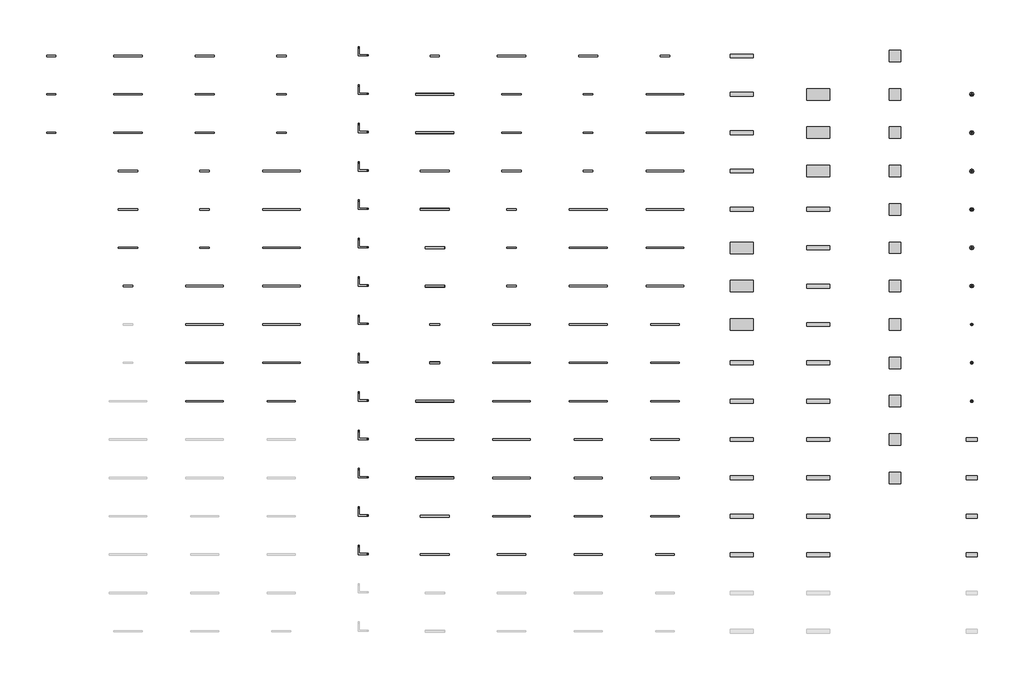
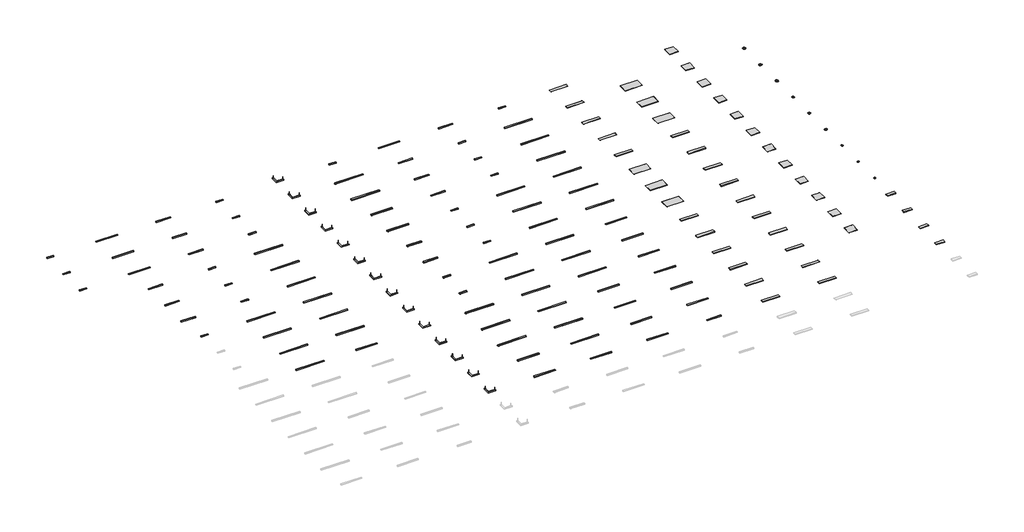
# One storey, part 7 of 7: 152 light fixtures.
"""IFC4 building model written with IfcOpenShell, lengths in millimetres."""

from ifc_helpers import new_model, si_unit, origin, place, context, project, spatial, transform, mapped, element, save
from components import light_fixture_90001b4d, light_fixture_260f1384, light_fixture_2bea209e, light_fixture_5221eba1, light_fixture_96eaa53e, light_fixture_9e089268, light_fixture_b40a6a63, light_fixture_b1754167, light_fixture_3c8a666a, light_fixture_8643cc04, light_fixture_5198e44a, light_fixture_045715e0, light_fixture_13749f30, light_fixture_eaf00b14, light_fixture_4e9e6f2b, light_fixture_50d0131d, light_fixture_58f65422, light_fixture_3ed5fcd1, light_fixture_d129a5be, light_fixture_1a73ff57, light_fixture_e28e19d9, light_fixture_e1df5a22, light_fixture_ede7c11f

model = new_model("IFC4")

# Units and contexts
model_context = context("Model", 3, world=origin())
ifc_project = project(units=[si_unit("LENGTHUNIT", "METRE", prefix="MILLI")], contexts=[model_context])

# Site, building, storey
site = spatial("IfcSite", under=ifc_project)
building = spatial("IfcBuilding", under=site)
storey = spatial("IfcBuildingStorey", under=building, Name="Уровень 1", Elevation=0.0)

# Light fixtures
placement = place(None, origin())
light_fixture_shape = light_fixture_90001b4d(model_context)
element("IfcLightFixture", 1, ObjectType="GENILED_Светильник светодиодный_Trade Linear Advanced : Trade Linear Advanced 490х65х60 10Вт Черный 3000К", at=placement, inside=storey, context=model_context, shape_type="MappedRepresentation", body=[
    mapped(light_fixture_shape, transform((128000.0, 54000.0, 0.0), x_axis=(1.0, 0.0, 0.0), y_axis=(0.0, 1.0, 0.0), z_axis=(0.0, 0.0, 1.0))),
])
element("IfcLightFixture", 2, ObjectType="GENILED_Светильник светодиодный_Trade Linear Advanced : Trade Linear Advanced 490х65х60 20Вт Черный 3000К", at=placement, inside=storey, context=model_context, shape_type="MappedRepresentation", body=[
    mapped(light_fixture_shape, transform((128000.0, 56000.0, 0.0), x_axis=(1.0, 0.0, 0.0), y_axis=(0.0, 1.0, 0.0), z_axis=(0.0, 0.0, 1.0))),
])
element("IfcLightFixture", 3, ObjectType="GENILED_Светильник светодиодный_Trade Linear Advanced : Trade Linear Advanced 490х65х60 30Вт Черный 3000К", at=placement, inside=storey, context=model_context, shape_type="MappedRepresentation", body=[
    mapped(light_fixture_shape, transform((128000.0, 58000.0, 0.0), x_axis=(1.0, 0.0, 0.0), y_axis=(0.0, 1.0, 0.0), z_axis=(0.0, 0.0, 1.0))),
])
light_fixture_2_shape = light_fixture_260f1384(model_context)
element("IfcLightFixture", 4, ObjectType="GENILED_Светильник светодиодный_Trade Linear Advanced : Trade Linear Advanced 500х65х60 30Вт IP54 Черный 3000К", at=placement, inside=storey, context=model_context, shape_type="MappedRepresentation", body=[
    mapped(light_fixture_2_shape, transform((132000.0, 46000.0, 0.0), x_axis=(1.0, 0.0, 0.0), y_axis=(0.0, 1.0, 0.0), z_axis=(0.0, 0.0, 1.0))),
])
light_fixture_3_shape = light_fixture_2bea209e(model_context)
element("IfcLightFixture", 5, ObjectType="GENILED_Светильник светодиодный_Trade Linear Advanced : Trade Linear Advanced 1000х65х60 20Вт IP54 Черный 3000К", at=placement, inside=storey, context=model_context, shape_type="MappedRepresentation", body=[
    mapped(light_fixture_3_shape, transform((132000.0, 48000.0, 0.0), x_axis=(1.0, 0.0, 0.0), y_axis=(0.0, 1.0, 0.0), z_axis=(0.0, 0.0, 1.0))),
])
element("IfcLightFixture", 6, ObjectType="GENILED_Светильник светодиодный_Trade Linear Advanced : Trade Linear Advanced 1000х65х60 40Вт IP54 Черный 3000К", at=placement, inside=storey, context=model_context, shape_type="MappedRepresentation", body=[
    mapped(light_fixture_3_shape, transform((132000.0, 50000.0, 0.0), x_axis=(1.0, 0.0, 0.0), y_axis=(0.0, 1.0, 0.0), z_axis=(0.0, 0.0, 1.0))),
])
element("IfcLightFixture", 7, ObjectType="GENILED_Светильник светодиодный_Trade Linear Advanced : Trade Linear Advanced 1000х65х60 60Вт IP54 Черный 3000К", at=placement, inside=storey, context=model_context, shape_type="MappedRepresentation", body=[
    mapped(light_fixture_3_shape, transform((132000.0, 52000.0, 0.0), x_axis=(1.0, 0.0, 0.0), y_axis=(0.0, 1.0, 0.0), z_axis=(0.0, 0.0, 1.0))),
])
light_fixture_4_shape = light_fixture_5221eba1(model_context)
element("IfcLightFixture", 8, ObjectType="GENILED_Светильник светодиодный_Trade Linear Advanced : Trade Linear Advanced 1500х65х60 30Вт IP54 Черный 3000К", at=placement, inside=storey, context=model_context, shape_type="MappedRepresentation", body=[
    mapped(light_fixture_4_shape, transform((132000.0, 54000.0, 0.0), x_axis=(1.0, 0.0, 0.0), y_axis=(0.0, 1.0, 0.0), z_axis=(0.0, 0.0, 1.0))),
])
element("IfcLightFixture", 9, ObjectType="GENILED_Светильник светодиодный_Trade Linear Advanced : Trade Linear Advanced 1500х65х60 60Вт IP54 Черный 3000К", at=placement, inside=storey, context=model_context, shape_type="MappedRepresentation", body=[
    mapped(light_fixture_4_shape, transform((132000.0, 56000.0, 0.0), x_axis=(1.0, 0.0, 0.0), y_axis=(0.0, 1.0, 0.0), z_axis=(0.0, 0.0, 1.0))),
])
element("IfcLightFixture", 10, ObjectType="GENILED_Светильник светодиодный_Trade Linear Advanced : Trade Linear Advanced 1500х65х60 90Вт IP54 Черный 3000К", at=placement, inside=storey, context=model_context, shape_type="MappedRepresentation", body=[
    mapped(light_fixture_4_shape, transform((132000.0, 58000.0, 0.0), x_axis=(1.0, 0.0, 0.0), y_axis=(0.0, 1.0, 0.0), z_axis=(0.0, 0.0, 1.0))),
])
light_fixture_5_shape = light_fixture_96eaa53e(model_context)
element("IfcLightFixture", 11, ObjectType="GENILED_Светильник светодиодный_Trade Linear Advanced : Trade Linear Advanced 1962x65x60 120Вт Черный 4000К", at=placement, inside=storey, context=model_context, shape_type="MappedRepresentation", body=[
    mapped(light_fixture_5_shape, transform((136000.0, 40000.0, 0.0), x_axis=(1.0, 0.0, 0.0), y_axis=(0.0, 1.0, 0.0), z_axis=(0.0, 0.0, 1.0))),
])
element("IfcLightFixture", 12, ObjectType="GENILED_Светильник светодиодный_Trade Linear Advanced : Trade Linear Advanced 1962x65x60 40Вт Deep Черный 4000К", at=placement, inside=storey, context=model_context, shape_type="MappedRepresentation", body=[
    mapped(light_fixture_5_shape, transform((136000.0, 42000.0, 0.0), x_axis=(1.0, 0.0, 0.0), y_axis=(0.0, 1.0, 0.0), z_axis=(0.0, 0.0, 1.0))),
])
element("IfcLightFixture", 13, ObjectType="GENILED_Светильник светодиодный_Trade Linear Advanced : Trade Linear Advanced 1962x65x60 80Вт Deep Черный 4000К", at=placement, inside=storey, context=model_context, shape_type="MappedRepresentation", body=[
    mapped(light_fixture_5_shape, transform((136000.0, 44000.0, 0.0), x_axis=(1.0, 0.0, 0.0), y_axis=(0.0, 1.0, 0.0), z_axis=(0.0, 0.0, 1.0))),
])
element("IfcLightFixture", 14, ObjectType="GENILED_Светильник светодиодный_Trade Linear Advanced : Trade Linear Advanced 1962x65x60 120Вт Deep Черный 4000К", at=placement, inside=storey, context=model_context, shape_type="MappedRepresentation", body=[
    mapped(light_fixture_5_shape, transform((136000.0, 46000.0, 0.0), x_axis=(1.0, 0.0, 0.0), y_axis=(0.0, 1.0, 0.0), z_axis=(0.0, 0.0, 1.0))),
])
element("IfcLightFixture", 15, ObjectType="GENILED_Светильник светодиодный_Trade Linear Advanced : Trade Linear Advanced 500x65x60 10Вт IP54 Черный 4000К", at=placement, inside=storey, context=model_context, shape_type="MappedRepresentation", body=[
    mapped(light_fixture_2_shape, transform((136000.0, 48000.0, 0.0), x_axis=(1.0, 0.0, 0.0), y_axis=(0.0, 1.0, 0.0), z_axis=(0.0, 0.0, 1.0))),
])
element("IfcLightFixture", 16, ObjectType="GENILED_Светильник светодиодный_Trade Linear Advanced : Trade Linear Advanced 500x65x60 20Вт IP54 Черный 4000К", at=placement, inside=storey, context=model_context, shape_type="MappedRepresentation", body=[
    mapped(light_fixture_2_shape, transform((136000.0, 50000.0, 0.0), x_axis=(1.0, 0.0, 0.0), y_axis=(0.0, 1.0, 0.0), z_axis=(0.0, 0.0, 1.0))),
])
element("IfcLightFixture", 17, ObjectType="GENILED_Светильник светодиодный_Trade Linear Advanced : Trade Linear Advanced 500x65x60 30Вт IP54 Черный 4000К", at=placement, inside=storey, context=model_context, shape_type="MappedRepresentation", body=[
    mapped(light_fixture_2_shape, transform((136000.0, 52000.0, 0.0), x_axis=(1.0, 0.0, 0.0), y_axis=(0.0, 1.0, 0.0), z_axis=(0.0, 0.0, 1.0))),
])
element("IfcLightFixture", 18, ObjectType="GENILED_Светильник светодиодный_Trade Linear Advanced : Trade Linear Advanced 1000x65x60 20Вт IP54 Черный 4000К", at=placement, inside=storey, context=model_context, shape_type="MappedRepresentation", body=[
    mapped(light_fixture_3_shape, transform((136000.0, 54000.0, 0.0), x_axis=(1.0, 0.0, 0.0), y_axis=(0.0, 1.0, 0.0), z_axis=(0.0, 0.0, 1.0))),
])
element("IfcLightFixture", 19, ObjectType="GENILED_Светильник светодиодный_Trade Linear Advanced : Trade Linear Advanced 1000x65x60 40Вт IP54 Черный 4000К", at=placement, inside=storey, context=model_context, shape_type="MappedRepresentation", body=[
    mapped(light_fixture_3_shape, transform((136000.0, 56000.0, 0.0), x_axis=(1.0, 0.0, 0.0), y_axis=(0.0, 1.0, 0.0), z_axis=(0.0, 0.0, 1.0))),
])
element("IfcLightFixture", 20, ObjectType="GENILED_Светильник светодиодный_Trade Linear Advanced : Trade Linear Advanced 1000x65x60 60Вт IP54 Черный 4000К", at=placement, inside=storey, context=model_context, shape_type="MappedRepresentation", body=[
    mapped(light_fixture_3_shape, transform((136000.0, 58000.0, 0.0), x_axis=(1.0, 0.0, 0.0), y_axis=(0.0, 1.0, 0.0), z_axis=(0.0, 0.0, 1.0))),
])
light_fixture_6_shape = light_fixture_9e089268(model_context)
element("IfcLightFixture", 21, ObjectType="GENILED_Светильник светодиодный_Trade Linear Advanced : Trade Linear Advanced 1472x65x60 90Вт Deep Черный 5000К", at=placement, inside=storey, context=model_context, shape_type="MappedRepresentation", body=[
    mapped(light_fixture_6_shape, transform((140000.0, 40000.0, 0.0), x_axis=(1.0, 0.0, 0.0), y_axis=(0.0, 1.0, 0.0), z_axis=(0.0, 0.0, 1.0))),
])
element("IfcLightFixture", 22, ObjectType="GENILED_Светильник светодиодный_Trade Linear Advanced : Trade Linear Advanced 1962x65x60 40Вт Черный 5000К", at=placement, inside=storey, context=model_context, shape_type="MappedRepresentation", body=[
    mapped(light_fixture_5_shape, transform((140000.0, 42000.0, 0.0), x_axis=(1.0, 0.0, 0.0), y_axis=(0.0, 1.0, 0.0), z_axis=(0.0, 0.0, 1.0))),
])
element("IfcLightFixture", 23, ObjectType="GENILED_Светильник светодиодный_Trade Linear Advanced : Trade Linear Advanced 1962x65x60 80Вт Черный 5000К", at=placement, inside=storey, context=model_context, shape_type="MappedRepresentation", body=[
    mapped(light_fixture_5_shape, transform((140000.0, 44000.0, 0.0), x_axis=(1.0, 0.0, 0.0), y_axis=(0.0, 1.0, 0.0), z_axis=(0.0, 0.0, 1.0))),
])
element("IfcLightFixture", 24, ObjectType="GENILED_Светильник светодиодный_Trade Linear Advanced : Trade Linear Advanced 1962x65x60 120Вт Черный 5000К", at=placement, inside=storey, context=model_context, shape_type="MappedRepresentation", body=[
    mapped(light_fixture_5_shape, transform((140000.0, 46000.0, 0.0), x_axis=(1.0, 0.0, 0.0), y_axis=(0.0, 1.0, 0.0), z_axis=(0.0, 0.0, 1.0))),
])
element("IfcLightFixture", 25, ObjectType="GENILED_Светильник светодиодный_Trade Linear Advanced : Trade Linear Advanced 1962x65x60 40Вт Deep Черный 5000К", at=placement, inside=storey, context=model_context, shape_type="MappedRepresentation", body=[
    mapped(light_fixture_5_shape, transform((140000.0, 48000.0, 0.0), x_axis=(1.0, 0.0, 0.0), y_axis=(0.0, 1.0, 0.0), z_axis=(0.0, 0.0, 1.0))),
])
element("IfcLightFixture", 26, ObjectType="GENILED_Светильник светодиодный_Trade Linear Advanced : Trade Linear Advanced 1962x65x60 80Вт Deep Черный 5000К", at=placement, inside=storey, context=model_context, shape_type="MappedRepresentation", body=[
    mapped(light_fixture_5_shape, transform((140000.0, 50000.0, 0.0), x_axis=(1.0, 0.0, 0.0), y_axis=(0.0, 1.0, 0.0), z_axis=(0.0, 0.0, 1.0))),
])
element("IfcLightFixture", 27, ObjectType="GENILED_Светильник светодиодный_Trade Linear Advanced : Trade Linear Advanced 1962x65x60 120Вт Deep Черный 5000К", at=placement, inside=storey, context=model_context, shape_type="MappedRepresentation", body=[
    mapped(light_fixture_5_shape, transform((140000.0, 52000.0, 0.0), x_axis=(1.0, 0.0, 0.0), y_axis=(0.0, 1.0, 0.0), z_axis=(0.0, 0.0, 1.0))),
])
element("IfcLightFixture", 28, ObjectType="GENILED_Светильник светодиодный_Trade Linear Advanced : Trade Linear Advanced 500x65x60 10Вт IP54 Черный 5000К", at=placement, inside=storey, context=model_context, shape_type="MappedRepresentation", body=[
    mapped(light_fixture_2_shape, transform((140000.0, 54000.0, 0.0), x_axis=(1.0, 0.0, 0.0), y_axis=(0.0, 1.0, 0.0), z_axis=(0.0, 0.0, 1.0))),
])
element("IfcLightFixture", 29, ObjectType="GENILED_Светильник светодиодный_Trade Linear Advanced : Trade Linear Advanced 500x65x60 20Вт IP54 Черный 5000К", at=placement, inside=storey, context=model_context, shape_type="MappedRepresentation", body=[
    mapped(light_fixture_2_shape, transform((140000.0, 56000.0, 0.0), x_axis=(1.0, 0.0, 0.0), y_axis=(0.0, 1.0, 0.0), z_axis=(0.0, 0.0, 1.0))),
])
element("IfcLightFixture", 30, ObjectType="GENILED_Светильник светодиодный_Trade Linear Advanced : Trade Linear Advanced 500x65x60 30Вт IP54 Черный 5000К", at=placement, inside=storey, context=model_context, shape_type="MappedRepresentation", body=[
    mapped(light_fixture_2_shape, transform((140000.0, 58000.0, 0.0), x_axis=(1.0, 0.0, 0.0), y_axis=(0.0, 1.0, 0.0), z_axis=(0.0, 0.0, 1.0))),
])
light_fixture_7_shape = light_fixture_b40a6a63(model_context)
element("IfcLightFixture", 31, ObjectType="GENILED_Светильник светодиодный_Trade Linear L Advanced : Trade Linear Advanced 492-542x65x60 40Вт Deep Черный 4000К", at=placement, inside=storey, context=model_context, shape_type="MappedRepresentation", body=[
    mapped(light_fixture_7_shape, transform((144000.0, 32000.0, 0.0), x_axis=(1.0, 0.0, 0.0), y_axis=(0.0, 1.0, 0.0), z_axis=(0.0, 0.0, 1.0))),
])
element("IfcLightFixture", 32, ObjectType="GENILED_Светильник светодиодный_Trade Linear L Advanced : Trade Linear Advanced 492-542x65x60 60Вт Deep Черный 4000К", at=placement, inside=storey, context=model_context, shape_type="MappedRepresentation", body=[
    mapped(light_fixture_7_shape, transform((144000.0, 34000.0, 0.0), x_axis=(1.0, 0.0, 0.0), y_axis=(0.0, 1.0, 0.0), z_axis=(0.0, 0.0, 1.0))),
])
element("IfcLightFixture", 33, ObjectType="GENILED_Светильник светодиодный_Trade Linear L Advanced : Trade Linear Advanced 492-542x65x60 20Вт Черный 5000К", at=placement, inside=storey, context=model_context, shape_type="MappedRepresentation", body=[
    mapped(light_fixture_7_shape, transform((144000.0, 36000.0, 0.0), x_axis=(1.0, 0.0, 0.0), y_axis=(0.0, 1.0, 0.0), z_axis=(0.0, 0.0, 1.0))),
])
element("IfcLightFixture", 34, ObjectType="GENILED_Светильник светодиодный_Trade Linear L Advanced : Trade Linear Advanced 492-542x65x60 40Вт Черный 5000К", at=placement, inside=storey, context=model_context, shape_type="MappedRepresentation", body=[
    mapped(light_fixture_7_shape, transform((144000.0, 38000.0, 0.0), x_axis=(1.0, 0.0, 0.0), y_axis=(0.0, 1.0, 0.0), z_axis=(0.0, 0.0, 1.0))),
])
element("IfcLightFixture", 35, ObjectType="GENILED_Светильник светодиодный_Trade Linear L Advanced : Trade Linear Advanced 492-542x65x60 60Вт Черный 5000К", at=placement, inside=storey, context=model_context, shape_type="MappedRepresentation", body=[
    mapped(light_fixture_7_shape, transform((144000.0, 40000.0, 0.0), x_axis=(1.0, 0.0, 0.0), y_axis=(0.0, 1.0, 0.0), z_axis=(0.0, 0.0, 1.0))),
])
element("IfcLightFixture", 36, ObjectType="GENILED_Светильник светодиодный_Trade Linear L Advanced : Trade Linear Advanced 492-542x65x60 20Вт Deep Черный 5000К", at=placement, inside=storey, context=model_context, shape_type="MappedRepresentation", body=[
    mapped(light_fixture_7_shape, transform((144000.0, 42000.0, 0.0), x_axis=(1.0, 0.0, 0.0), y_axis=(0.0, 1.0, 0.0), z_axis=(0.0, 0.0, 1.0))),
])
element("IfcLightFixture", 37, ObjectType="GENILED_Светильник светодиодный_Trade Linear L Advanced : Trade Linear Advanced 492-542x65x60 40Вт Deep Черный 5000К", at=placement, inside=storey, context=model_context, shape_type="MappedRepresentation", body=[
    mapped(light_fixture_7_shape, transform((144000.0, 44000.0, 0.0), x_axis=(1.0, 0.0, 0.0), y_axis=(0.0, 1.0, 0.0), z_axis=(0.0, 0.0, 1.0))),
])
element("IfcLightFixture", 38, ObjectType="GENILED_Светильник светодиодный_Trade Linear L Advanced : Trade Linear Advanced 492-542x65x60 60Вт Deep Черный 5000К", at=placement, inside=storey, context=model_context, shape_type="MappedRepresentation", body=[
    mapped(light_fixture_7_shape, transform((144000.0, 46000.0, 0.0), x_axis=(1.0, 0.0, 0.0), y_axis=(0.0, 1.0, 0.0), z_axis=(0.0, 0.0, 1.0))),
])
element("IfcLightFixture", 39, ObjectType="GENILED_Светильник светодиодный_Trade Linear L Standart : Trade Linear Standart 492-542x65x60 20Вт Черный 3000К", at=placement, inside=storey, context=model_context, shape_type="MappedRepresentation", body=[
    mapped(light_fixture_7_shape, transform((144000.0, 48000.0, 0.0), x_axis=(1.0, 0.0, 0.0), y_axis=(0.0, 1.0, 0.0), z_axis=(0.0, 0.0, 1.0))),
])
element("IfcLightFixture", 40, ObjectType="GENILED_Светильник светодиодный_Trade Linear L Standart : Trade Linear Standart 492-542x65x60 40Вт Черный 3000К", at=placement, inside=storey, context=model_context, shape_type="MappedRepresentation", body=[
    mapped(light_fixture_7_shape, transform((144000.0, 50000.0, 0.0), x_axis=(1.0, 0.0, 0.0), y_axis=(0.0, 1.0, 0.0), z_axis=(0.0, 0.0, 1.0))),
])
element("IfcLightFixture", 41, ObjectType="GENILED_Светильник светодиодный_Trade Linear L Standart : Trade Linear Standart 492-542x65x60 60Вт Черный 3000К", at=placement, inside=storey, context=model_context, shape_type="MappedRepresentation", body=[
    mapped(light_fixture_7_shape, transform((144000.0, 52000.0, 0.0), x_axis=(1.0, 0.0, 0.0), y_axis=(0.0, 1.0, 0.0), z_axis=(0.0, 0.0, 1.0))),
])
element("IfcLightFixture", 42, ObjectType="GENILED_Светильник светодиодный_Trade Linear L Standart : Trade Linear Standart 492-542x65x60 20Вт Deep Черный 3000К", at=placement, inside=storey, context=model_context, shape_type="MappedRepresentation", body=[
    mapped(light_fixture_7_shape, transform((144000.0, 54000.0, 0.0), x_axis=(1.0, 0.0, 0.0), y_axis=(0.0, 1.0, 0.0), z_axis=(0.0, 0.0, 1.0))),
])
element("IfcLightFixture", 43, ObjectType="GENILED_Светильник светодиодный_Trade Linear L Standart : Trade Linear Standart 492-542x65x60 40Вт Deep Черный 3000К", at=placement, inside=storey, context=model_context, shape_type="MappedRepresentation", body=[
    mapped(light_fixture_7_shape, transform((144000.0, 56000.0, 0.0), x_axis=(1.0, 0.0, 0.0), y_axis=(0.0, 1.0, 0.0), z_axis=(0.0, 0.0, 1.0))),
])
element("IfcLightFixture", 44, ObjectType="GENILED_Светильник светодиодный_Trade Linear L Standart : Trade Linear Standart 492-542x65x60 60Вт Deep Черный 3000К", at=placement, inside=storey, context=model_context, shape_type="MappedRepresentation", body=[
    mapped(light_fixture_7_shape, transform((144000.0, 58000.0, 0.0), x_axis=(1.0, 0.0, 0.0), y_axis=(0.0, 1.0, 0.0), z_axis=(0.0, 0.0, 1.0))),
])
light_fixture_8_shape = light_fixture_b1754167(model_context)
element("IfcLightFixture", 45, ObjectType="GENILED_Светильник светодиодный_Trade Linear Standart Встраиваемый : Встраиваемый Trade Linear Standart 1472x65x60 60Вт Deep Опал Черный", at=placement, inside=storey, context=model_context, shape_type="MappedRepresentation", body=[
    mapped(light_fixture_8_shape, transform((148000.0, 32000.0, 0.0), x_axis=(1.0, 0.0, 0.0), y_axis=(0.0, 1.0, 0.0), z_axis=(0.0, 0.0, 1.0))),
])
element("IfcLightFixture", 46, ObjectType="GENILED_Светильник светодиодный_Trade Linear Standart Встраиваемый : Встраиваемый Trade Linear Standart 1472x65x60 90Вт Deep Опал Черный", at=placement, inside=storey, context=model_context, shape_type="MappedRepresentation", body=[
    mapped(light_fixture_8_shape, transform((148000.0, 34000.0, 0.0), x_axis=(1.0, 0.0, 0.0), y_axis=(0.0, 1.0, 0.0), z_axis=(0.0, 0.0, 1.0))),
])
light_fixture_9_shape = light_fixture_3c8a666a(model_context)
element("IfcLightFixture", 47, ObjectType="GENILED_Светильник светодиодный_Trade Linear Standart Встраиваемый : Встраиваемый Trade Linear Standart 1962x65x60 80Вт Deep Опал Черный", at=placement, inside=storey, context=model_context, shape_type="MappedRepresentation", body=[
    mapped(light_fixture_9_shape, transform((148000.0, 36000.0, 0.0), x_axis=(1.0, 0.0, 0.0), y_axis=(0.0, 1.0, 0.0), z_axis=(0.0, 0.0, 1.0))),
])
element("IfcLightFixture", 48, ObjectType="GENILED_Светильник светодиодный_Trade Linear Standart Встраиваемый : Встраиваемый Trade Linear Standart 1962x65x60 120Вт Deep Опал Черный", at=placement, inside=storey, context=model_context, shape_type="MappedRepresentation", body=[
    mapped(light_fixture_9_shape, transform((148000.0, 38000.0, 0.0), x_axis=(1.0, 0.0, 0.0), y_axis=(0.0, 1.0, 0.0), z_axis=(0.0, 0.0, 1.0))),
])
element("IfcLightFixture", 49, ObjectType="GENILED_Светильник светодиодный_Trade Linear Standart Встраиваемый : Встраиваемый Trade Linear Standart 1962x65x60 120Вт Deep 5000К Опал Черный", at=placement, inside=storey, context=model_context, shape_type="MappedRepresentation", body=[
    mapped(light_fixture_9_shape, transform((148000.0, 40000.0, 0.0), x_axis=(1.0, 0.0, 0.0), y_axis=(0.0, 1.0, 0.0), z_axis=(0.0, 0.0, 1.0))),
])
light_fixture_10_shape = light_fixture_8643cc04(model_context)
element("IfcLightFixture", 50, ObjectType="GENILED_Светильник светодиодный_Trade Linear Standart Встраиваемый : Встраиваемый Trade Linear Standart 490x65x60 20Вт 90Ra Deep Опал Черный", at=placement, inside=storey, context=model_context, shape_type="MappedRepresentation", body=[
    mapped(light_fixture_10_shape, transform((148000.0, 42000.0, 0.0), x_axis=(1.0, 0.0, 0.0), y_axis=(0.0, 1.0, 0.0), z_axis=(0.0, 0.0, 1.0))),
])
element("IfcLightFixture", 51, ObjectType="GENILED_Светильник светодиодный_Trade Linear Standart Встраиваемый : Встраиваемый Trade Linear Standart 490x65x60 30Вт 90Ra Deep Опал Черный", at=placement, inside=storey, context=model_context, shape_type="MappedRepresentation", body=[
    mapped(light_fixture_10_shape, transform((148000.0, 44000.0, 0.0), x_axis=(1.0, 0.0, 0.0), y_axis=(0.0, 1.0, 0.0), z_axis=(0.0, 0.0, 1.0))),
])
light_fixture_11_shape = light_fixture_5198e44a(model_context)
element("IfcLightFixture", 52, ObjectType="GENILED_Светильник светодиодный_Trade Linear Standart Встраиваемый : Встраиваемый Trade Linear Standart 980x65x60 40Вт 90Ra Deep Опал Черный", at=placement, inside=storey, context=model_context, shape_type="MappedRepresentation", body=[
    mapped(light_fixture_11_shape, transform((148000.0, 46000.0, 0.0), x_axis=(1.0, 0.0, 0.0), y_axis=(0.0, 1.0, 0.0), z_axis=(0.0, 0.0, 1.0))),
])
element("IfcLightFixture", 53, ObjectType="GENILED_Светильник светодиодный_Trade Linear Standart Встраиваемый : Встраиваемый Trade Linear Standart 980x65x60 60Вт 90Ra Deep Опал Черный", at=placement, inside=storey, context=model_context, shape_type="MappedRepresentation", body=[
    mapped(light_fixture_11_shape, transform((148000.0, 48000.0, 0.0), x_axis=(1.0, 0.0, 0.0), y_axis=(0.0, 1.0, 0.0), z_axis=(0.0, 0.0, 1.0))),
])
element("IfcLightFixture", 54, ObjectType="GENILED_Светильник светодиодный_Trade Linear Standart Встраиваемый : Встраиваемый Trade Linear Standart 1472x65x60 60Вт 90Ra Deep Опал Черный", at=placement, inside=storey, context=model_context, shape_type="MappedRepresentation", body=[
    mapped(light_fixture_8_shape, transform((148000.0, 50000.0, 0.0), x_axis=(1.0, 0.0, 0.0), y_axis=(0.0, 1.0, 0.0), z_axis=(0.0, 0.0, 1.0))),
])
element("IfcLightFixture", 55, ObjectType="GENILED_Светильник светодиодный_Trade Linear Standart Встраиваемый : Встраиваемый Trade Linear Standart 1472x65x60 90Вт 90Ra Deep Опал Черный", at=placement, inside=storey, context=model_context, shape_type="MappedRepresentation", body=[
    mapped(light_fixture_8_shape, transform((148000.0, 52000.0, 0.0), x_axis=(1.0, 0.0, 0.0), y_axis=(0.0, 1.0, 0.0), z_axis=(0.0, 0.0, 1.0))),
])
element("IfcLightFixture", 56, ObjectType="GENILED_Светильник светодиодный_Trade Linear Standart Встраиваемый : Встраиваемый Trade Linear Standart 1962x65x60 80Вт 90Ra Deep Опал Черный", at=placement, inside=storey, context=model_context, shape_type="MappedRepresentation", body=[
    mapped(light_fixture_9_shape, transform((148000.0, 54000.0, 0.0), x_axis=(1.0, 0.0, 0.0), y_axis=(0.0, 1.0, 0.0), z_axis=(0.0, 0.0, 1.0))),
])
element("IfcLightFixture", 57, ObjectType="GENILED_Светильник светодиодный_Trade Linear Standart Встраиваемый : Встраиваемый Trade Linear Standart 1962x65x60 120Вт 90Ra Deep Опал Черный", at=placement, inside=storey, context=model_context, shape_type="MappedRepresentation", body=[
    mapped(light_fixture_9_shape, transform((148000.0, 56000.0, 0.0), x_axis=(1.0, 0.0, 0.0), y_axis=(0.0, 1.0, 0.0), z_axis=(0.0, 0.0, 1.0))),
])
element("IfcLightFixture", 58, ObjectType="GENILED_Светильник светодиодный_Trade Linear Standart : Trade Linear Standart 490x65x60 10Вт Черный 3000К", at=placement, inside=storey, context=model_context, shape_type="MappedRepresentation", body=[
    mapped(light_fixture_shape, transform((148000.0, 58000.0, 0.0), x_axis=(1.0, 0.0, 0.0), y_axis=(0.0, 1.0, 0.0), z_axis=(0.0, 0.0, 1.0))),
])
element("IfcLightFixture", 59, ObjectType="GENILED_Светильник светодиодный_Trade Linear Standart : Trade Linear Standart 1472x65x60 90Вт Deep Черный 3000К", at=placement, inside=storey, context=model_context, shape_type="MappedRepresentation", body=[
    mapped(light_fixture_6_shape, transform((152000.0, 32000.0, 0.0), x_axis=(1.0, 0.0, 0.0), y_axis=(0.0, 1.0, 0.0), z_axis=(0.0, 0.0, 1.0))),
])
element("IfcLightFixture", 60, ObjectType="GENILED_Светильник светодиодный_Trade Linear Standart : Trade Linear Standart 1962x65x60 40Вт Черный 3000К", at=placement, inside=storey, context=model_context, shape_type="MappedRepresentation", body=[
    mapped(light_fixture_5_shape, transform((152000.0, 34000.0, 0.0), x_axis=(1.0, 0.0, 0.0), y_axis=(0.0, 1.0, 0.0), z_axis=(0.0, 0.0, 1.0))),
])
element("IfcLightFixture", 61, ObjectType="GENILED_Светильник светодиодный_Trade Linear Standart : Trade Linear Standart 1962x65x60 80Вт Черный 3000К", at=placement, inside=storey, context=model_context, shape_type="MappedRepresentation", body=[
    mapped(light_fixture_5_shape, transform((152000.0, 36000.0, 0.0), x_axis=(1.0, 0.0, 0.0), y_axis=(0.0, 1.0, 0.0), z_axis=(0.0, 0.0, 1.0))),
])
element("IfcLightFixture", 62, ObjectType="GENILED_Светильник светодиодный_Trade Linear Standart : Trade Linear Standart 1962x65x60 120Вт Черный 3000К", at=placement, inside=storey, context=model_context, shape_type="MappedRepresentation", body=[
    mapped(light_fixture_5_shape, transform((152000.0, 38000.0, 0.0), x_axis=(1.0, 0.0, 0.0), y_axis=(0.0, 1.0, 0.0), z_axis=(0.0, 0.0, 1.0))),
])
element("IfcLightFixture", 63, ObjectType="GENILED_Светильник светодиодный_Trade Linear Standart : Trade Linear Standart 1962x65x60 40Вт Deep Черный 3000К", at=placement, inside=storey, context=model_context, shape_type="MappedRepresentation", body=[
    mapped(light_fixture_5_shape, transform((152000.0, 40000.0, 0.0), x_axis=(1.0, 0.0, 0.0), y_axis=(0.0, 1.0, 0.0), z_axis=(0.0, 0.0, 1.0))),
])
element("IfcLightFixture", 64, ObjectType="GENILED_Светильник светодиодный_Trade Linear Standart : Trade Linear Standart 1962x65x60 80Вт Deep Черный 3000К", at=placement, inside=storey, context=model_context, shape_type="MappedRepresentation", body=[
    mapped(light_fixture_5_shape, transform((152000.0, 42000.0, 0.0), x_axis=(1.0, 0.0, 0.0), y_axis=(0.0, 1.0, 0.0), z_axis=(0.0, 0.0, 1.0))),
])
element("IfcLightFixture", 65, ObjectType="GENILED_Светильник светодиодный_Trade Linear Standart : Trade Linear Standart 1962x65x60 120Вт Deep Черный 3000К", at=placement, inside=storey, context=model_context, shape_type="MappedRepresentation", body=[
    mapped(light_fixture_5_shape, transform((152000.0, 44000.0, 0.0), x_axis=(1.0, 0.0, 0.0), y_axis=(0.0, 1.0, 0.0), z_axis=(0.0, 0.0, 1.0))),
])
element("IfcLightFixture", 66, ObjectType="GENILED_Светильник светодиодный_Trade Linear Standart : Trade Linear Standart 500x65x60 10Вт IP54 Черный 3000К", at=placement, inside=storey, context=model_context, shape_type="MappedRepresentation", body=[
    mapped(light_fixture_2_shape, transform((152000.0, 46000.0, 0.0), x_axis=(1.0, 0.0, 0.0), y_axis=(0.0, 1.0, 0.0), z_axis=(0.0, 0.0, 1.0))),
])
element("IfcLightFixture", 67, ObjectType="GENILED_Светильник светодиодный_Trade Linear Standart : Trade Linear Standart 500x65x60 20Вт IP54 Черный 3000К", at=placement, inside=storey, context=model_context, shape_type="MappedRepresentation", body=[
    mapped(light_fixture_2_shape, transform((152000.0, 48000.0, 0.0), x_axis=(1.0, 0.0, 0.0), y_axis=(0.0, 1.0, 0.0), z_axis=(0.0, 0.0, 1.0))),
])
element("IfcLightFixture", 68, ObjectType="GENILED_Светильник светодиодный_Trade Linear Standart : Trade Linear Standart 500x65x60 30Вт IP54 Черный 3000К", at=placement, inside=storey, context=model_context, shape_type="MappedRepresentation", body=[
    mapped(light_fixture_2_shape, transform((152000.0, 50000.0, 0.0), x_axis=(1.0, 0.0, 0.0), y_axis=(0.0, 1.0, 0.0), z_axis=(0.0, 0.0, 1.0))),
])
element("IfcLightFixture", 69, ObjectType="GENILED_Светильник светодиодный_Trade Linear Standart : Trade Linear Standart 1000x65x60 20Вт IP54 Черный 3000К", at=placement, inside=storey, context=model_context, shape_type="MappedRepresentation", body=[
    mapped(light_fixture_3_shape, transform((152000.0, 52000.0, 0.0), x_axis=(1.0, 0.0, 0.0), y_axis=(0.0, 1.0, 0.0), z_axis=(0.0, 0.0, 1.0))),
])
element("IfcLightFixture", 70, ObjectType="GENILED_Светильник светодиодный_Trade Linear Standart : Trade Linear Standart 1000x65x60 40Вт IP54 Черный 3000К", at=placement, inside=storey, context=model_context, shape_type="MappedRepresentation", body=[
    mapped(light_fixture_3_shape, transform((152000.0, 54000.0, 0.0), x_axis=(1.0, 0.0, 0.0), y_axis=(0.0, 1.0, 0.0), z_axis=(0.0, 0.0, 1.0))),
])
element("IfcLightFixture", 71, ObjectType="GENILED_Светильник светодиодный_Trade Linear Standart : Trade Linear Standart 1000x65x60 60Вт IP54 Черный 3000К", at=placement, inside=storey, context=model_context, shape_type="MappedRepresentation", body=[
    mapped(light_fixture_3_shape, transform((152000.0, 56000.0, 0.0), x_axis=(1.0, 0.0, 0.0), y_axis=(0.0, 1.0, 0.0), z_axis=(0.0, 0.0, 1.0))),
])
element("IfcLightFixture", 72, ObjectType="GENILED_Светильник светодиодный_Trade Linear Standart : Trade Linear Standart 1500x65x60 30Вт IP54 Черный 3000К", at=placement, inside=storey, context=model_context, shape_type="MappedRepresentation", body=[
    mapped(light_fixture_4_shape, transform((152000.0, 58000.0, 0.0), x_axis=(1.0, 0.0, 0.0), y_axis=(0.0, 1.0, 0.0), z_axis=(0.0, 0.0, 1.0))),
])
element("IfcLightFixture", 73, ObjectType="GENILED_Светильник светодиодный_Trade Linear Standart : Trade Linear Standart 1472x65x60 90Вт 90Ra Белый 4000К", at=placement, inside=storey, context=model_context, shape_type="MappedRepresentation", body=[
    mapped(light_fixture_6_shape, transform((156000.0, 32000.0, 0.0), x_axis=(1.0, 0.0, 0.0), y_axis=(0.0, 1.0, 0.0), z_axis=(0.0, 0.0, 1.0))),
])
element("IfcLightFixture", 74, ObjectType="GENILED_Светильник светодиодный_Trade Linear Standart : Trade Linear Standart 1472x65x60 30Вт 90Ra Deep Белый 4000К", at=placement, inside=storey, context=model_context, shape_type="MappedRepresentation", body=[
    mapped(light_fixture_6_shape, transform((156000.0, 34000.0, 0.0), x_axis=(1.0, 0.0, 0.0), y_axis=(0.0, 1.0, 0.0), z_axis=(0.0, 0.0, 1.0))),
])
element("IfcLightFixture", 75, ObjectType="GENILED_Светильник светодиодный_Trade Linear Standart : Trade Linear Standart 1472x65x60 60Вт 90Ra Deep Белый 4000К", at=placement, inside=storey, context=model_context, shape_type="MappedRepresentation", body=[
    mapped(light_fixture_6_shape, transform((156000.0, 36000.0, 0.0), x_axis=(1.0, 0.0, 0.0), y_axis=(0.0, 1.0, 0.0), z_axis=(0.0, 0.0, 1.0))),
])
element("IfcLightFixture", 76, ObjectType="GENILED_Светильник светодиодный_Trade Linear Standart : Trade Linear Standart 1472x65x60 90Вт 90Ra Deep Белый 4000К", at=placement, inside=storey, context=model_context, shape_type="MappedRepresentation", body=[
    mapped(light_fixture_6_shape, transform((156000.0, 38000.0, 0.0), x_axis=(1.0, 0.0, 0.0), y_axis=(0.0, 1.0, 0.0), z_axis=(0.0, 0.0, 1.0))),
])
element("IfcLightFixture", 77, ObjectType="GENILED_Светильник светодиодный_Trade Linear Standart : Trade Linear Standart 1962x65x60 40Вт 90Ra Белый 4000К", at=placement, inside=storey, context=model_context, shape_type="MappedRepresentation", body=[
    mapped(light_fixture_5_shape, transform((156000.0, 40000.0, 0.0), x_axis=(1.0, 0.0, 0.0), y_axis=(0.0, 1.0, 0.0), z_axis=(0.0, 0.0, 1.0))),
])
element("IfcLightFixture", 78, ObjectType="GENILED_Светильник светодиодный_Trade Linear Standart : Trade Linear Standart 1962x65x60 80Вт 90Ra Белый 4000К", at=placement, inside=storey, context=model_context, shape_type="MappedRepresentation", body=[
    mapped(light_fixture_5_shape, transform((156000.0, 42000.0, 0.0), x_axis=(1.0, 0.0, 0.0), y_axis=(0.0, 1.0, 0.0), z_axis=(0.0, 0.0, 1.0))),
])
element("IfcLightFixture", 79, ObjectType="GENILED_Светильник светодиодный_Trade Linear Standart : Trade Linear Standart 1962x65x60 120Вт 90Ra Белый 4000К", at=placement, inside=storey, context=model_context, shape_type="MappedRepresentation", body=[
    mapped(light_fixture_5_shape, transform((156000.0, 44000.0, 0.0), x_axis=(1.0, 0.0, 0.0), y_axis=(0.0, 1.0, 0.0), z_axis=(0.0, 0.0, 1.0))),
])
element("IfcLightFixture", 80, ObjectType="GENILED_Светильник светодиодный_Trade Linear Standart : Trade Linear Standart 1962x65x60 40Вт 90Ra Deep Белый 4000К", at=placement, inside=storey, context=model_context, shape_type="MappedRepresentation", body=[
    mapped(light_fixture_5_shape, transform((156000.0, 46000.0, 0.0), x_axis=(1.0, 0.0, 0.0), y_axis=(0.0, 1.0, 0.0), z_axis=(0.0, 0.0, 1.0))),
])
element("IfcLightFixture", 81, ObjectType="GENILED_Светильник светодиодный_Trade Linear Standart : Trade Linear Standart 1962x65x60 80Вт 90Ra Deep Белый 4000К", at=placement, inside=storey, context=model_context, shape_type="MappedRepresentation", body=[
    mapped(light_fixture_5_shape, transform((156000.0, 48000.0, 0.0), x_axis=(1.0, 0.0, 0.0), y_axis=(0.0, 1.0, 0.0), z_axis=(0.0, 0.0, 1.0))),
])
element("IfcLightFixture", 82, ObjectType="GENILED_Светильник светодиодный_Trade Linear Standart : Trade Linear Standart 1962x65x60 120Вт 90Ra Deep Белый 4000К", at=placement, inside=storey, context=model_context, shape_type="MappedRepresentation", body=[
    mapped(light_fixture_5_shape, transform((156000.0, 50000.0, 0.0), x_axis=(1.0, 0.0, 0.0), y_axis=(0.0, 1.0, 0.0), z_axis=(0.0, 0.0, 1.0))),
])
element("IfcLightFixture", 83, ObjectType="GENILED_Светильник светодиодный_Trade Linear Standart : Trade Linear Standart 500x65x60 10Вт 90Ra IP54 Белый 4000К", at=placement, inside=storey, context=model_context, shape_type="MappedRepresentation", body=[
    mapped(light_fixture_2_shape, transform((156000.0, 52000.0, 0.0), x_axis=(1.0, 0.0, 0.0), y_axis=(0.0, 1.0, 0.0), z_axis=(0.0, 0.0, 1.0))),
])
element("IfcLightFixture", 84, ObjectType="GENILED_Светильник светодиодный_Trade Linear Standart : Trade Linear Standart 500x65x60 20Вт 90Ra IP54 Белый 4000К", at=placement, inside=storey, context=model_context, shape_type="MappedRepresentation", body=[
    mapped(light_fixture_2_shape, transform((156000.0, 54000.0, 0.0), x_axis=(1.0, 0.0, 0.0), y_axis=(0.0, 1.0, 0.0), z_axis=(0.0, 0.0, 1.0))),
])
element("IfcLightFixture", 85, ObjectType="GENILED_Светильник светодиодный_Trade Linear Standart : Trade Linear Standart 500x65x60 30Вт 90Ra IP54 Белый 4000К", at=placement, inside=storey, context=model_context, shape_type="MappedRepresentation", body=[
    mapped(light_fixture_2_shape, transform((156000.0, 56000.0, 0.0), x_axis=(1.0, 0.0, 0.0), y_axis=(0.0, 1.0, 0.0), z_axis=(0.0, 0.0, 1.0))),
])
element("IfcLightFixture", 86, ObjectType="GENILED_Светильник светодиодный_Trade Linear Standart : Trade Linear Standart 1000x65x60 20Вт 90Ra IP54 Белый 4000К", at=placement, inside=storey, context=model_context, shape_type="MappedRepresentation", body=[
    mapped(light_fixture_3_shape, transform((156000.0, 58000.0, 0.0), x_axis=(1.0, 0.0, 0.0), y_axis=(0.0, 1.0, 0.0), z_axis=(0.0, 0.0, 1.0))),
])
light_fixture_12_shape = light_fixture_045715e0(model_context)
element("IfcLightFixture", 87, ObjectType="GENILED_Светильник светодиодный_Trade Linear Standart : Trade Linear Standart 980x65x60 60Вт Deep 5000К", at=placement, inside=storey, context=model_context, shape_type="MappedRepresentation", body=[
    mapped(light_fixture_12_shape, transform((160000.0, 32000.0, 0.0), x_axis=(1.0, 0.0, 0.0), y_axis=(0.0, 1.0, 0.0), z_axis=(0.0, 0.0, 1.0))),
])
element("IfcLightFixture", 88, ObjectType="GENILED_Светильник светодиодный_Trade Linear Standart : Trade Linear Standart 1472x65x60 30Вт 5000К", at=placement, inside=storey, context=model_context, shape_type="MappedRepresentation", body=[
    mapped(light_fixture_6_shape, transform((160000.0, 34000.0, 0.0), x_axis=(1.0, 0.0, 0.0), y_axis=(0.0, 1.0, 0.0), z_axis=(0.0, 0.0, 1.0))),
])
element("IfcLightFixture", 89, ObjectType="GENILED_Светильник светодиодный_Trade Linear Standart : Trade Linear Standart 1472x65x60 60Вт 5000К", at=placement, inside=storey, context=model_context, shape_type="MappedRepresentation", body=[
    mapped(light_fixture_6_shape, transform((160000.0, 36000.0, 0.0), x_axis=(1.0, 0.0, 0.0), y_axis=(0.0, 1.0, 0.0), z_axis=(0.0, 0.0, 1.0))),
])
element("IfcLightFixture", 90, ObjectType="GENILED_Светильник светодиодный_Trade Linear Standart : Trade Linear Standart 1472x65x60 90Вт 5000К", at=placement, inside=storey, context=model_context, shape_type="MappedRepresentation", body=[
    mapped(light_fixture_6_shape, transform((160000.0, 38000.0, 0.0), x_axis=(1.0, 0.0, 0.0), y_axis=(0.0, 1.0, 0.0), z_axis=(0.0, 0.0, 1.0))),
])
element("IfcLightFixture", 91, ObjectType="GENILED_Светильник светодиодный_Trade Linear Standart : Trade Linear Standart 1472x65x60 30Вт Deep 5000К", at=placement, inside=storey, context=model_context, shape_type="MappedRepresentation", body=[
    mapped(light_fixture_6_shape, transform((160000.0, 40000.0, 0.0), x_axis=(1.0, 0.0, 0.0), y_axis=(0.0, 1.0, 0.0), z_axis=(0.0, 0.0, 1.0))),
])
element("IfcLightFixture", 92, ObjectType="GENILED_Светильник светодиодный_Trade Linear Standart : Trade Linear Standart 1472x65x60 60Вт Deep 5000К", at=placement, inside=storey, context=model_context, shape_type="MappedRepresentation", body=[
    mapped(light_fixture_6_shape, transform((160000.0, 42000.0, 0.0), x_axis=(1.0, 0.0, 0.0), y_axis=(0.0, 1.0, 0.0), z_axis=(0.0, 0.0, 1.0))),
])
element("IfcLightFixture", 93, ObjectType="GENILED_Светильник светодиодный_Trade Linear Standart : Trade Linear Standart 1472x65x60 90Вт Deep 5000К", at=placement, inside=storey, context=model_context, shape_type="MappedRepresentation", body=[
    mapped(light_fixture_6_shape, transform((160000.0, 44000.0, 0.0), x_axis=(1.0, 0.0, 0.0), y_axis=(0.0, 1.0, 0.0), z_axis=(0.0, 0.0, 1.0))),
])
element("IfcLightFixture", 94, ObjectType="GENILED_Светильник светодиодный_Trade Linear Standart : Trade Linear Standart 1962x65x60 40Вт 5000К", at=placement, inside=storey, context=model_context, shape_type="MappedRepresentation", body=[
    mapped(light_fixture_5_shape, transform((160000.0, 46000.0, 0.0), x_axis=(1.0, 0.0, 0.0), y_axis=(0.0, 1.0, 0.0), z_axis=(0.0, 0.0, 1.0))),
])
element("IfcLightFixture", 95, ObjectType="GENILED_Светильник светодиодный_Trade Linear Standart : Trade Linear Standart 1962x65x60 80Вт 5000К", at=placement, inside=storey, context=model_context, shape_type="MappedRepresentation", body=[
    mapped(light_fixture_5_shape, transform((160000.0, 48000.0, 0.0), x_axis=(1.0, 0.0, 0.0), y_axis=(0.0, 1.0, 0.0), z_axis=(0.0, 0.0, 1.0))),
])
element("IfcLightFixture", 96, ObjectType="GENILED_Светильник светодиодный_Trade Linear Standart : Trade Linear Standart 1962x65x60 120Вт 5000К", at=placement, inside=storey, context=model_context, shape_type="MappedRepresentation", body=[
    mapped(light_fixture_5_shape, transform((160000.0, 50000.0, 0.0), x_axis=(1.0, 0.0, 0.0), y_axis=(0.0, 1.0, 0.0), z_axis=(0.0, 0.0, 1.0))),
])
element("IfcLightFixture", 97, ObjectType="GENILED_Светильник светодиодный_Trade Linear Standart : Trade Linear Standart 1962x65x60 40Вт Deep 5000К", at=placement, inside=storey, context=model_context, shape_type="MappedRepresentation", body=[
    mapped(light_fixture_5_shape, transform((160000.0, 52000.0, 0.0), x_axis=(1.0, 0.0, 0.0), y_axis=(0.0, 1.0, 0.0), z_axis=(0.0, 0.0, 1.0))),
])
element("IfcLightFixture", 98, ObjectType="GENILED_Светильник светодиодный_Trade Linear Standart : Trade Linear Standart 1962x65x60 80Вт Deep 5000К", at=placement, inside=storey, context=model_context, shape_type="MappedRepresentation", body=[
    mapped(light_fixture_5_shape, transform((160000.0, 54000.0, 0.0), x_axis=(1.0, 0.0, 0.0), y_axis=(0.0, 1.0, 0.0), z_axis=(0.0, 0.0, 1.0))),
])
element("IfcLightFixture", 99, ObjectType="GENILED_Светильник светодиодный_Trade Linear Standart : Trade Linear Standart 1962x65x60 120Вт Deep 5000К", at=placement, inside=storey, context=model_context, shape_type="MappedRepresentation", body=[
    mapped(light_fixture_5_shape, transform((160000.0, 56000.0, 0.0), x_axis=(1.0, 0.0, 0.0), y_axis=(0.0, 1.0, 0.0), z_axis=(0.0, 0.0, 1.0))),
])
element("IfcLightFixture", 100, ObjectType="GENILED_Светильник светодиодный_Trade Linear Standart : Trade Linear Standart 500x65x60 10Вт IP54 5000К", at=placement, inside=storey, context=model_context, shape_type="MappedRepresentation", body=[
    mapped(light_fixture_2_shape, transform((160000.0, 58000.0, 0.0), x_axis=(1.0, 0.0, 0.0), y_axis=(0.0, 1.0, 0.0), z_axis=(0.0, 0.0, 1.0))),
])
light_fixture_13_shape = light_fixture_13749f30(model_context)
element("IfcLightFixture", 101, ObjectType="GENILED_Светильник светодиодный_ЛПО Advanced : ЛПО Advanced 1200х180х40 60Вт Опал", at=placement, inside=storey, context=model_context, shape_type="MappedRepresentation", body=[
    mapped(light_fixture_13_shape, transform((164000.0, 32000.0, 0.0), x_axis=(1.0, 0.0, 0.0), y_axis=(0.0, 1.0, 0.0), z_axis=(0.0, 0.0, 1.0))),
])
element("IfcLightFixture", 102, ObjectType="GENILED_Светильник светодиодный_ЛПО Advanced : ЛПО Advanced 1200х180х40 80Вт Опал", at=placement, inside=storey, context=model_context, shape_type="MappedRepresentation", body=[
    mapped(light_fixture_13_shape, transform((164000.0, 34000.0, 0.0), x_axis=(1.0, 0.0, 0.0), y_axis=(0.0, 1.0, 0.0), z_axis=(0.0, 0.0, 1.0))),
])
light_fixture_14_shape = light_fixture_eaf00b14(model_context)
element("IfcLightFixture", 103, ObjectType="GENILED_Светильник светодиодный_ЛПО Advanced : ЛПО Advanced 1200х180х45 40Вт IP54 40Вт Опал", at=placement, inside=storey, context=model_context, shape_type="MappedRepresentation", body=[
    mapped(light_fixture_14_shape, transform((164000.0, 36000.0, 0.0), x_axis=(1.0, 0.0, 0.0), y_axis=(0.0, 1.0, 0.0), z_axis=(0.0, 0.0, 1.0))),
])
element("IfcLightFixture", 104, ObjectType="GENILED_Светильник светодиодный_ЛПО Advanced : ЛПО Advanced 1200х180х45 50Вт IP54 50Вт Опал", at=placement, inside=storey, context=model_context, shape_type="MappedRepresentation", body=[
    mapped(light_fixture_14_shape, transform((164000.0, 38000.0, 0.0), x_axis=(1.0, 0.0, 0.0), y_axis=(0.0, 1.0, 0.0), z_axis=(0.0, 0.0, 1.0))),
])
element("IfcLightFixture", 105, ObjectType="GENILED_Светильник светодиодный_ЛПО Advanced : ЛПО Advanced 1200х180х45 60Вт IP54 60Вт Опал", at=placement, inside=storey, context=model_context, shape_type="MappedRepresentation", body=[
    mapped(light_fixture_14_shape, transform((164000.0, 40000.0, 0.0), x_axis=(1.0, 0.0, 0.0), y_axis=(0.0, 1.0, 0.0), z_axis=(0.0, 0.0, 1.0))),
])
element("IfcLightFixture", 106, ObjectType="GENILED_Светильник светодиодный_ЛПО Advanced : ЛПО Advanced 1200х180х45 80Вт IP54 80Вт Опал", at=placement, inside=storey, context=model_context, shape_type="MappedRepresentation", body=[
    mapped(light_fixture_14_shape, transform((164000.0, 42000.0, 0.0), x_axis=(1.0, 0.0, 0.0), y_axis=(0.0, 1.0, 0.0), z_axis=(0.0, 0.0, 1.0))),
])
light_fixture_15_shape = light_fixture_4e9e6f2b(model_context)
element("IfcLightFixture", 107, ObjectType="GENILED_Светильник светодиодный_ЛПО Advanced : ЛПО Advanced 1200х600х20 60Вт Опал", at=placement, inside=storey, context=model_context, shape_type="MappedRepresentation", body=[
    mapped(light_fixture_15_shape, transform((164000.0, 44000.0, 0.0), x_axis=(1.0, 0.0, 0.0), y_axis=(0.0, 1.0, 0.0), z_axis=(0.0, 0.0, 1.0))),
])
element("IfcLightFixture", 108, ObjectType="GENILED_Светильник светодиодный_ЛПО Advanced : ЛПО Advanced 1200х600х20 80Вт Опал", at=placement, inside=storey, context=model_context, shape_type="MappedRepresentation", body=[
    mapped(light_fixture_15_shape, transform((164000.0, 46000.0, 0.0), x_axis=(1.0, 0.0, 0.0), y_axis=(0.0, 1.0, 0.0), z_axis=(0.0, 0.0, 1.0))),
])
element("IfcLightFixture", 109, ObjectType="GENILED_Светильник светодиодный_ЛПО Advanced : ЛПО Advanced 1200х600х20 100Вт Опал", at=placement, inside=storey, context=model_context, shape_type="MappedRepresentation", body=[
    mapped(light_fixture_15_shape, transform((164000.0, 48000.0, 0.0), x_axis=(1.0, 0.0, 0.0), y_axis=(0.0, 1.0, 0.0), z_axis=(0.0, 0.0, 1.0))),
])
light_fixture_16_shape = light_fixture_50d0131d(model_context)
element("IfcLightFixture", 110, ObjectType="GENILED_Светильник светодиодный_ЛПО Standart : ЛПО Standart 1200x180x20 40Вт Опал 3000К", at=placement, inside=storey, context=model_context, shape_type="MappedRepresentation", body=[
    mapped(light_fixture_16_shape, transform((164000.0, 50000.0, 0.0), x_axis=(1.0, 0.0, 0.0), y_axis=(0.0, 1.0, 0.0), z_axis=(0.0, 0.0, 1.0))),
])
element("IfcLightFixture", 111, ObjectType="GENILED_Светильник светодиодный_ЛПО Standart : ЛПО Standart 1200x180x20 40Вт Опал Черный 3000К", at=placement, inside=storey, context=model_context, shape_type="MappedRepresentation", body=[
    mapped(light_fixture_16_shape, transform((164000.0, 52000.0, 0.0), x_axis=(1.0, 0.0, 0.0), y_axis=(0.0, 1.0, 0.0), z_axis=(0.0, 0.0, 1.0))),
])
element("IfcLightFixture", 112, ObjectType="GENILED_Светильник светодиодный_ЛПО Standart : ЛПО Standart 1200x180x20 40Вт Опал 4000К", at=placement, inside=storey, context=model_context, shape_type="MappedRepresentation", body=[
    mapped(light_fixture_16_shape, transform((164000.0, 54000.0, 0.0), x_axis=(1.0, 0.0, 0.0), y_axis=(0.0, 1.0, 0.0), z_axis=(0.0, 0.0, 1.0))),
])
element("IfcLightFixture", 113, ObjectType="GENILED_Светильник светодиодный_ЛПО Standart : ЛПО Standart 1200x180x20 50Вт Опал 3000К", at=placement, inside=storey, context=model_context, shape_type="MappedRepresentation", body=[
    mapped(light_fixture_16_shape, transform((164000.0, 56000.0, 0.0), x_axis=(1.0, 0.0, 0.0), y_axis=(0.0, 1.0, 0.0), z_axis=(0.0, 0.0, 1.0))),
])
element("IfcLightFixture", 114, ObjectType="GENILED_Светильник светодиодный_ЛПО Standart : ЛПО Standart 1200x180x20 50Вт Опал 5000К", at=placement, inside=storey, context=model_context, shape_type="MappedRepresentation", body=[
    mapped(light_fixture_16_shape, transform((164000.0, 58000.0, 0.0), x_axis=(1.0, 0.0, 0.0), y_axis=(0.0, 1.0, 0.0), z_axis=(0.0, 0.0, 1.0))),
])
element("IfcLightFixture", 115, ObjectType="GENILED_Светильник светодиодный_ЛПО Standart : ЛПО Standart 1200x180x20 60Вт 90Ra Опал 4000К", at=placement, inside=storey, context=model_context, shape_type="MappedRepresentation", body=[
    mapped(light_fixture_16_shape, transform((168000.0, 32000.0, 0.0), x_axis=(1.0, 0.0, 0.0), y_axis=(0.0, 1.0, 0.0), z_axis=(0.0, 0.0, 1.0))),
])
element("IfcLightFixture", 116, ObjectType="GENILED_Светильник светодиодный_ЛПО Standart : ЛПО Standart 1200x180x20 80Вт 90Ra Опал 4000К", at=placement, inside=storey, context=model_context, shape_type="MappedRepresentation", body=[
    mapped(light_fixture_16_shape, transform((168000.0, 34000.0, 0.0), x_axis=(1.0, 0.0, 0.0), y_axis=(0.0, 1.0, 0.0), z_axis=(0.0, 0.0, 1.0))),
])
element("IfcLightFixture", 117, ObjectType="GENILED_Светильник светодиодный_ЛПО Standart : ЛПО Standart 1200x180x40 40Вт 90Ra Опал 4000К", at=placement, inside=storey, context=model_context, shape_type="MappedRepresentation", body=[
    mapped(light_fixture_13_shape, transform((168000.0, 36000.0, 0.0), x_axis=(1.0, 0.0, 0.0), y_axis=(0.0, 1.0, 0.0), z_axis=(0.0, 0.0, 1.0))),
])
element("IfcLightFixture", 118, ObjectType="GENILED_Светильник светодиодный_ЛПО Standart : ЛПО Standart 1200x180x40 50Вт 90Ra Опал 4000К", at=placement, inside=storey, context=model_context, shape_type="MappedRepresentation", body=[
    mapped(light_fixture_13_shape, transform((168000.0, 38000.0, 0.0), x_axis=(1.0, 0.0, 0.0), y_axis=(0.0, 1.0, 0.0), z_axis=(0.0, 0.0, 1.0))),
])
element("IfcLightFixture", 119, ObjectType="GENILED_Светильник светодиодный_ЛПО Standart : ЛПО Standart 1200x180x40 60Вт 90Ra Опал 4000К", at=placement, inside=storey, context=model_context, shape_type="MappedRepresentation", body=[
    mapped(light_fixture_13_shape, transform((168000.0, 40000.0, 0.0), x_axis=(1.0, 0.0, 0.0), y_axis=(0.0, 1.0, 0.0), z_axis=(0.0, 0.0, 1.0))),
])
element("IfcLightFixture", 120, ObjectType="GENILED_Светильник светодиодный_ЛПО Standart : ЛПО Standart 1200x180x40 80Вт 90Ra Опал 4000К", at=placement, inside=storey, context=model_context, shape_type="MappedRepresentation", body=[
    mapped(light_fixture_13_shape, transform((168000.0, 42000.0, 0.0), x_axis=(1.0, 0.0, 0.0), y_axis=(0.0, 1.0, 0.0), z_axis=(0.0, 0.0, 1.0))),
])
element("IfcLightFixture", 121, ObjectType="GENILED_Светильник светодиодный_ЛПО Standart : ЛПО Standart 1200x180x45 40Вт 90Ra IP54 Опал 4000К", at=placement, inside=storey, context=model_context, shape_type="MappedRepresentation", body=[
    mapped(light_fixture_14_shape, transform((168000.0, 44000.0, 0.0), x_axis=(1.0, 0.0, 0.0), y_axis=(0.0, 1.0, 0.0), z_axis=(0.0, 0.0, 1.0))),
])
element("IfcLightFixture", 122, ObjectType="GENILED_Светильник светодиодный_ЛПО Standart : ЛПО Standart 1200x180x45 50Вт 90Ra IP54 Опал 4000К", at=placement, inside=storey, context=model_context, shape_type="MappedRepresentation", body=[
    mapped(light_fixture_14_shape, transform((168000.0, 46000.0, 0.0), x_axis=(1.0, 0.0, 0.0), y_axis=(0.0, 1.0, 0.0), z_axis=(0.0, 0.0, 1.0))),
])
element("IfcLightFixture", 123, ObjectType="GENILED_Светильник светодиодный_ЛПО Standart : ЛПО Standart 1200x180x45 60Вт 90Ra IP54 Опал 4000К", at=placement, inside=storey, context=model_context, shape_type="MappedRepresentation", body=[
    mapped(light_fixture_14_shape, transform((168000.0, 48000.0, 0.0), x_axis=(1.0, 0.0, 0.0), y_axis=(0.0, 1.0, 0.0), z_axis=(0.0, 0.0, 1.0))),
])
element("IfcLightFixture", 124, ObjectType="GENILED_Светильник светодиодный_ЛПО Standart : ЛПО Standart 1200x180x45 80Вт 90Ra IP54 Опал 4000К", at=placement, inside=storey, context=model_context, shape_type="MappedRepresentation", body=[
    mapped(light_fixture_14_shape, transform((168000.0, 50000.0, 0.0), x_axis=(1.0, 0.0, 0.0), y_axis=(0.0, 1.0, 0.0), z_axis=(0.0, 0.0, 1.0))),
])
element("IfcLightFixture", 125, ObjectType="GENILED_Светильник светодиодный_ЛПО Standart : ЛПО Standart 1200x600x20 60Вт 90Ra Опал 4000К", at=placement, inside=storey, context=model_context, shape_type="MappedRepresentation", body=[
    mapped(light_fixture_15_shape, transform((168000.0, 52000.0, 0.0), x_axis=(1.0, 0.0, 0.0), y_axis=(0.0, 1.0, 0.0), z_axis=(0.0, 0.0, 1.0))),
])
element("IfcLightFixture", 126, ObjectType="GENILED_Светильник светодиодный_ЛПО Standart : ЛПО Standart 1200x600x20 80Вт 90Ra Опал 4000К", at=placement, inside=storey, context=model_context, shape_type="MappedRepresentation", body=[
    mapped(light_fixture_15_shape, transform((168000.0, 54000.0, 0.0), x_axis=(1.0, 0.0, 0.0), y_axis=(0.0, 1.0, 0.0), z_axis=(0.0, 0.0, 1.0))),
])
element("IfcLightFixture", 127, ObjectType="GENILED_Светильник светодиодный_ЛПО Standart : ЛПО Standart 1200x600x20 100Вт 90Ra Опал 4000К", at=placement, inside=storey, context=model_context, shape_type="MappedRepresentation", body=[
    mapped(light_fixture_15_shape, transform((168000.0, 56000.0, 0.0), x_axis=(1.0, 0.0, 0.0), y_axis=(0.0, 1.0, 0.0), z_axis=(0.0, 0.0, 1.0))),
])
light_fixture_17_shape = light_fixture_58f65422(model_context)
element("IfcLightFixture", 128, ObjectType="GENILED_Светильник светодиодный_Офис Advanced : Офис Advanced 595x595x20 30Вт Опал", at=placement, inside=storey, context=model_context, shape_type="MappedRepresentation", body=[
    mapped(light_fixture_17_shape, transform((172000.0, 36000.0, 0.0), x_axis=(1.0, 0.0, 0.0), y_axis=(0.0, 1.0, 0.0), z_axis=(0.0, 0.0, 1.0))),
])
element("IfcLightFixture", 129, ObjectType="GENILED_Светильник светодиодный_Офис Advanced : Офис Advanced 595x595x20 40Вт Опал", at=placement, inside=storey, context=model_context, shape_type="MappedRepresentation", body=[
    mapped(light_fixture_17_shape, transform((172000.0, 38000.0, 0.0), x_axis=(1.0, 0.0, 0.0), y_axis=(0.0, 1.0, 0.0), z_axis=(0.0, 0.0, 1.0))),
])
element("IfcLightFixture", 130, ObjectType="GENILED_Светильник светодиодный_Офис Advanced : Офис Advanced 595x595x20 50Вт Опал", at=placement, inside=storey, context=model_context, shape_type="MappedRepresentation", body=[
    mapped(light_fixture_17_shape, transform((172000.0, 40000.0, 0.0), x_axis=(1.0, 0.0, 0.0), y_axis=(0.0, 1.0, 0.0), z_axis=(0.0, 0.0, 1.0))),
])
element("IfcLightFixture", 131, ObjectType="GENILED_Светильник светодиодный_Офис Advanced : Офис Advanced 595x595x20 60Вт Опал", at=placement, inside=storey, context=model_context, shape_type="MappedRepresentation", body=[
    mapped(light_fixture_17_shape, transform((172000.0, 42000.0, 0.0), x_axis=(1.0, 0.0, 0.0), y_axis=(0.0, 1.0, 0.0), z_axis=(0.0, 0.0, 1.0))),
])
element("IfcLightFixture", 132, ObjectType="GENILED_Светильник светодиодный_Офис Advanced : Офис Advanced 595x595x20 80Вт Опал", at=placement, inside=storey, context=model_context, shape_type="MappedRepresentation", body=[
    mapped(light_fixture_17_shape, transform((172000.0, 44000.0, 0.0), x_axis=(1.0, 0.0, 0.0), y_axis=(0.0, 1.0, 0.0), z_axis=(0.0, 0.0, 1.0))),
])
element("IfcLightFixture", 133, ObjectType="GENILED_Светильник светодиодный_Офис Advanced : Офис Advanced 595x595x20 100Вт Опал", at=placement, inside=storey, context=model_context, shape_type="MappedRepresentation", body=[
    mapped(light_fixture_17_shape, transform((172000.0, 46000.0, 0.0), x_axis=(1.0, 0.0, 0.0), y_axis=(0.0, 1.0, 0.0), z_axis=(0.0, 0.0, 1.0))),
])
light_fixture_18_shape = light_fixture_3ed5fcd1(model_context)
element("IfcLightFixture", 134, ObjectType="GENILED_Светильник светодиодный_Офис Advanced : Офис Advanced 595х595х40 30Вт Опал", at=placement, inside=storey, context=model_context, shape_type="MappedRepresentation", body=[
    mapped(light_fixture_18_shape, transform((172000.0, 48000.0, 0.0), x_axis=(1.0, 0.0, 0.0), y_axis=(0.0, 1.0, 0.0), z_axis=(0.0, 0.0, 1.0))),
])
element("IfcLightFixture", 135, ObjectType="GENILED_Светильник светодиодный_Офис Advanced : Офис Advanced 595х595х40 40Вт Опал", at=placement, inside=storey, context=model_context, shape_type="MappedRepresentation", body=[
    mapped(light_fixture_18_shape, transform((172000.0, 50000.0, 0.0), x_axis=(1.0, 0.0, 0.0), y_axis=(0.0, 1.0, 0.0), z_axis=(0.0, 0.0, 1.0))),
])
element("IfcLightFixture", 136, ObjectType="GENILED_Светильник светодиодный_Офис Advanced : Офис Advanced 595x595x40 50Вт Опал", at=placement, inside=storey, context=model_context, shape_type="MappedRepresentation", body=[
    mapped(light_fixture_18_shape, transform((172000.0, 52000.0, 0.0), x_axis=(1.0, 0.0, 0.0), y_axis=(0.0, 1.0, 0.0), z_axis=(0.0, 0.0, 1.0))),
])
element("IfcLightFixture", 137, ObjectType="GENILED_Светильник светодиодный_Офис Advanced : Офис Advanced 595x595x40 60Вт Опал", at=placement, inside=storey, context=model_context, shape_type="MappedRepresentation", body=[
    mapped(light_fixture_18_shape, transform((172000.0, 54000.0, 0.0), x_axis=(1.0, 0.0, 0.0), y_axis=(0.0, 1.0, 0.0), z_axis=(0.0, 0.0, 1.0))),
])
element("IfcLightFixture", 138, ObjectType="GENILED_Светильник светодиодный_Офис Advanced : Офис Advanced 595x595x40 80Вт Опал", at=placement, inside=storey, context=model_context, shape_type="MappedRepresentation", body=[
    mapped(light_fixture_18_shape, transform((172000.0, 56000.0, 0.0), x_axis=(1.0, 0.0, 0.0), y_axis=(0.0, 1.0, 0.0), z_axis=(0.0, 0.0, 1.0))),
])
element("IfcLightFixture", 139, ObjectType="GENILED_Светильник светодиодный_Офис Advanced : Офис Advanced 595x595x40 100Вт Опал", at=placement, inside=storey, context=model_context, shape_type="MappedRepresentation", body=[
    mapped(light_fixture_18_shape, transform((172000.0, 58000.0, 0.0), x_axis=(1.0, 0.0, 0.0), y_axis=(0.0, 1.0, 0.0), z_axis=(0.0, 0.0, 1.0))),
])
light_fixture_19_shape = light_fixture_d129a5be(model_context)
element("IfcLightFixture", 140, ObjectType="GENILED_Светильник светодиодный_Офис Advanced : Офис Advanced 595x200x40 40Вт Опал", at=placement, inside=storey, context=model_context, shape_type="MappedRepresentation", body=[
    mapped(light_fixture_19_shape, transform((176000.0, 32000.0, 0.0), x_axis=(1.0, 0.0, 0.0), y_axis=(0.0, 1.0, 0.0), z_axis=(0.0, 0.0, 1.0))),
])
light_fixture_20_shape = light_fixture_1a73ff57(model_context)
element("IfcLightFixture", 141, ObjectType="GENILED_Светильник светодиодный_Офис Advanced : Офис Advanced 595x200x45 20Вт IP54 Опал", at=placement, inside=storey, context=model_context, shape_type="MappedRepresentation", body=[
    mapped(light_fixture_20_shape, transform((176000.0, 34000.0, 0.0), x_axis=(1.0, 0.0, 0.0), y_axis=(0.0, 1.0, 0.0), z_axis=(0.0, 0.0, 1.0))),
])
element("IfcLightFixture", 142, ObjectType="GENILED_Светильник светодиодный_Офис Advanced : Офис Advanced 595x200x45 30Вт IP54 Опал", at=placement, inside=storey, context=model_context, shape_type="MappedRepresentation", body=[
    mapped(light_fixture_20_shape, transform((176000.0, 36000.0, 0.0), x_axis=(1.0, 0.0, 0.0), y_axis=(0.0, 1.0, 0.0), z_axis=(0.0, 0.0, 1.0))),
])
element("IfcLightFixture", 143, ObjectType="GENILED_Светильник светодиодный_Офис Advanced : Офис Advanced 595x200x45 40Вт IP54 Опал", at=placement, inside=storey, context=model_context, shape_type="MappedRepresentation", body=[
    mapped(light_fixture_20_shape, transform((176000.0, 38000.0, 0.0), x_axis=(1.0, 0.0, 0.0), y_axis=(0.0, 1.0, 0.0), z_axis=(0.0, 0.0, 1.0))),
])
light_fixture_21_shape = light_fixture_e28e19d9(model_context)
element("IfcLightFixture", 144, ObjectType="GENILED_Светильник светодиодный_Сейлинг : Сейлинг 10Вт 3000К 90Ra IP54", at=placement, inside=storey, context=model_context, shape_type="MappedRepresentation", body=[
    mapped(light_fixture_21_shape, transform((176000.0, 40000.0, 0.0), x_axis=(1.0, 0.0, 0.0), y_axis=(0.0, 1.0, 0.0), z_axis=(0.0, 0.0, 1.0))),
])
element("IfcLightFixture", 145, ObjectType="GENILED_Светильник светодиодный_Сейлинг : Сейлинг 10Вт 4000К 90Ra IP54", at=placement, inside=storey, context=model_context, shape_type="MappedRepresentation", body=[
    mapped(light_fixture_21_shape, transform((176000.0, 42000.0, 0.0), x_axis=(1.0, 0.0, 0.0), y_axis=(0.0, 1.0, 0.0), z_axis=(0.0, 0.0, 1.0))),
])
element("IfcLightFixture", 146, ObjectType="GENILED_Светильник светодиодный_Сейлинг : Сейлинг 10Вт 5000К 90Ra IP54", at=placement, inside=storey, context=model_context, shape_type="MappedRepresentation", body=[
    mapped(light_fixture_21_shape, transform((176000.0, 44000.0, 0.0), x_axis=(1.0, 0.0, 0.0), y_axis=(0.0, 1.0, 0.0), z_axis=(0.0, 0.0, 1.0))),
])
light_fixture_22_shape = light_fixture_e1df5a22(model_context)
element("IfcLightFixture", 147, ObjectType="GENILED_Светильник светодиодный_Сейлинг : Сейлинг 20Вт 3000К 90Ra IP54", at=placement, inside=storey, context=model_context, shape_type="MappedRepresentation", body=[
    mapped(light_fixture_22_shape, transform((176000.0, 46000.0, 0.0), x_axis=(1.0, 0.0, 0.0), y_axis=(0.0, 1.0, 0.0), z_axis=(0.0, 0.0, 1.0))),
])
element("IfcLightFixture", 148, ObjectType="GENILED_Светильник светодиодный_Сейлинг : Сейлинг 20Вт 4000К 90Ra IP54", at=placement, inside=storey, context=model_context, shape_type="MappedRepresentation", body=[
    mapped(light_fixture_22_shape, transform((176000.0, 48000.0, 0.0), x_axis=(1.0, 0.0, 0.0), y_axis=(0.0, 1.0, 0.0), z_axis=(0.0, 0.0, 1.0))),
])
element("IfcLightFixture", 149, ObjectType="GENILED_Светильник светодиодный_Сейлинг : Сейлинг 20Вт 5000К 90Ra IP54", at=placement, inside=storey, context=model_context, shape_type="MappedRepresentation", body=[
    mapped(light_fixture_22_shape, transform((176000.0, 50000.0, 0.0), x_axis=(1.0, 0.0, 0.0), y_axis=(0.0, 1.0, 0.0), z_axis=(0.0, 0.0, 1.0))),
])
light_fixture_23_shape = light_fixture_ede7c11f(model_context)
element("IfcLightFixture", 150, ObjectType="GENILED_Светильник светодиодный_Сейлинг : Сейлинг 30Вт 3000К 90Ra IP54", at=placement, inside=storey, context=model_context, shape_type="MappedRepresentation", body=[
    mapped(light_fixture_23_shape, transform((176000.0, 52000.0, 0.0), x_axis=(1.0, 0.0, 0.0), y_axis=(0.0, 1.0, 0.0), z_axis=(0.0, 0.0, 1.0))),
])
element("IfcLightFixture", 151, ObjectType="GENILED_Светильник светодиодный_Сейлинг : Сейлинг 30Вт 4000К 90Ra IP54", at=placement, inside=storey, context=model_context, shape_type="MappedRepresentation", body=[
    mapped(light_fixture_23_shape, transform((176000.0, 54000.0, 0.0), x_axis=(1.0, 0.0, 0.0), y_axis=(0.0, 1.0, 0.0), z_axis=(0.0, 0.0, 1.0))),
])
element("IfcLightFixture", 152, ObjectType="GENILED_Светильник светодиодный_Сейлинг : Сейлинг 30Вт 5000К 90Ra IP54", at=placement, inside=storey, context=model_context, shape_type="MappedRepresentation", body=[
    mapped(light_fixture_23_shape, transform((176000.0, 56000.0, 0.0), x_axis=(1.0, 0.0, 0.0), y_axis=(0.0, 1.0, 0.0), z_axis=(0.0, 0.0, 1.0))),
])

save(model, "model.ifc")
